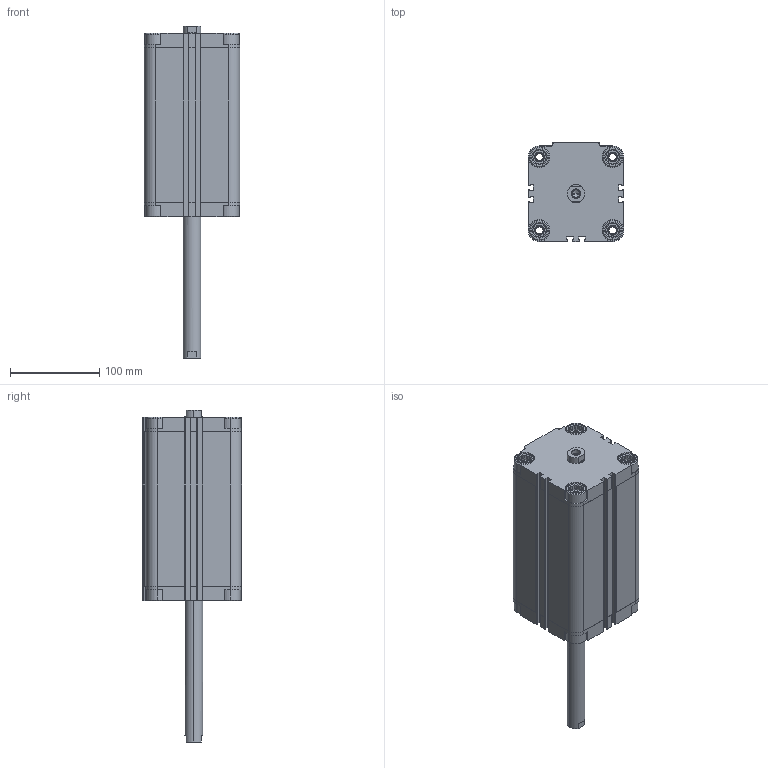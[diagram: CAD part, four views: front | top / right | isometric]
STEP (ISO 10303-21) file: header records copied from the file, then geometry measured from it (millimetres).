
FILE_DESCRIPTION (( 'STEP AP203' ), '1' );
FILE_NAME ('CDVU80-150F-P.STEP', '2020-07-24T18:41:30', ( '' ), ( '' ), 'SwSTEP 2.0', 'SolidWorks 2019', '' );
FILE_SCHEMA (( 'CONFIG_CONTROL_DESIGN' ));
Length unit declared in the file: millimetre
Products named in the file (1): CDVU80-150F-P
Bounding box: 107 x 111 x 372 mm (x, y, z)
Volume: 1530816.1 mm3; surface area: 256443.6 mm2
Topology: 2 solids, 2 shells, 670 faces, 1812 edges, 1188 vertices
Faces by surface type: plane 394, cylinder 212, cone 64
Entity records: 21267 total; most frequent: CARTESIAN_POINT 4239, ORIENTED_EDGE 3608, DIRECTION 3458, EDGE_CURVE 1804, VERTEX_POINT 1188, AXIS2_PLACEMENT_3D 1175, LINE 1108, VECTOR 1108
